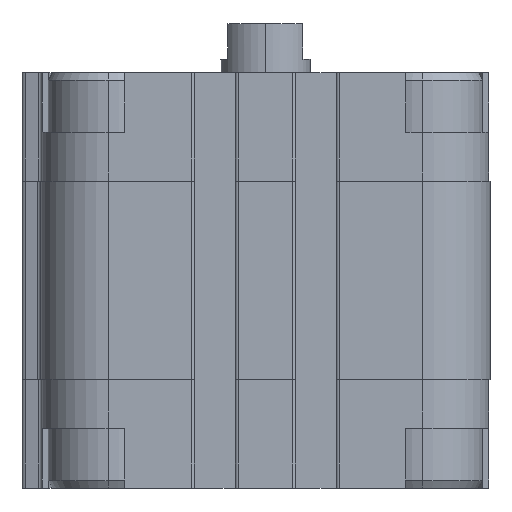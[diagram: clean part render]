
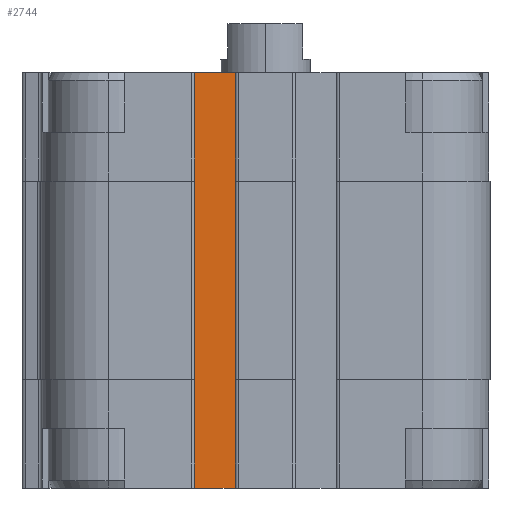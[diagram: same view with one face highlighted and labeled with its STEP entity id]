
A CAD part, left-side view. The second image highlights one B-rep face of the part: STEP entity #2744.
In plain terms, the highlighted planar face has unit normal (-1, 0, 0).
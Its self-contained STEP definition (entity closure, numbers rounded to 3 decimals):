
#234 = PLANE ( 'NONE',  #9330 ) ;
#467 = ORIENTED_EDGE ( 'NONE', *, *, #18664, .F. ) ;
#1610 = CARTESIAN_POINT ( 'NONE',  ( -25., 9.75, 0. ) ) ;
#1740 = EDGE_CURVE ( 'NONE', #20691, #9959, #14356, .T. ) ;
#1797 = DIRECTION ( 'NONE',  ( -1., 0., 0. ) ) ;
#2744 = ADVANCED_FACE ( 'NONE', ( #18557 ), #234, .T. ) ;
#3398 = DIRECTION ( 'NONE',  ( 0., -1., 0. ) ) ;
#3583 = DIRECTION ( 'NONE',  ( 0., 0., 1. ) ) ;
#3785 = VERTEX_POINT ( 'NONE', #18035 ) ;
#4858 = DIRECTION ( 'NONE',  ( 0., -1., 0. ) ) ;
#4890 = DIRECTION ( 'NONE',  ( 0., -1., 0. ) ) ;
#6452 = CARTESIAN_POINT ( 'NONE',  ( -25., 9.75, -55.5 ) ) ;
#7659 = CARTESIAN_POINT ( 'NONE',  ( -25., 9.75, -14.5 ) ) ;
#7923 = VECTOR ( 'NONE', #9453, 1000. ) ;
#8344 = LINE ( 'NONE', #1610, #10435 ) ;
#9330 = AXIS2_PLACEMENT_3D ( 'NONE', #10231, #1797, #4858 ) ;
#9453 = DIRECTION ( 'NONE',  ( 0., 0., 1. ) ) ;
#9518 = CARTESIAN_POINT ( 'NONE',  ( -25., 3.75, 0. ) ) ;
#9959 = VERTEX_POINT ( 'NONE', #9518 ) ;
#10231 = CARTESIAN_POINT ( 'NONE',  ( -25., 9.75, -14.5 ) ) ;
#10435 = VECTOR ( 'NONE', #3398, 1000. ) ;
#11566 = ORIENTED_EDGE ( 'NONE', *, *, #13512, .T. ) ;
#12944 = CARTESIAN_POINT ( 'NONE',  ( -25., 3.75, -55.5 ) ) ;
#13356 = EDGE_LOOP ( 'NONE', ( #19161, #467, #11566, #16018 ) ) ;
#13512 = EDGE_CURVE ( 'NONE', #3785, #20691, #18688, .T. ) ;
#14356 = LINE ( 'NONE', #15717, #16923 ) ;
#15717 = CARTESIAN_POINT ( 'NONE',  ( -25., 3.75, -14.5 ) ) ;
#16018 = ORIENTED_EDGE ( 'NONE', *, *, #1740, .T. ) ;
#16126 = CARTESIAN_POINT ( 'NONE',  ( -25., 9.75, 0. ) ) ;
#16184 = LINE ( 'NONE', #7659, #7923 ) ;
#16923 = VECTOR ( 'NONE', #3583, 1000. ) ;
#18035 = CARTESIAN_POINT ( 'NONE',  ( -25., 9.75, -55.5 ) ) ;
#18377 = EDGE_CURVE ( 'NONE', #18944, #9959, #8344, .T. ) ;
#18432 = VECTOR ( 'NONE', #4890, 1000. ) ;
#18557 = FACE_OUTER_BOUND ( 'NONE', #13356, .T. ) ;
#18664 = EDGE_CURVE ( 'NONE', #3785, #18944, #16184, .T. ) ;
#18688 = LINE ( 'NONE', #6452, #18432 ) ;
#18944 = VERTEX_POINT ( 'NONE', #16126 ) ;
#19161 = ORIENTED_EDGE ( 'NONE', *, *, #18377, .F. ) ;
#20691 = VERTEX_POINT ( 'NONE', #12944 ) ;
